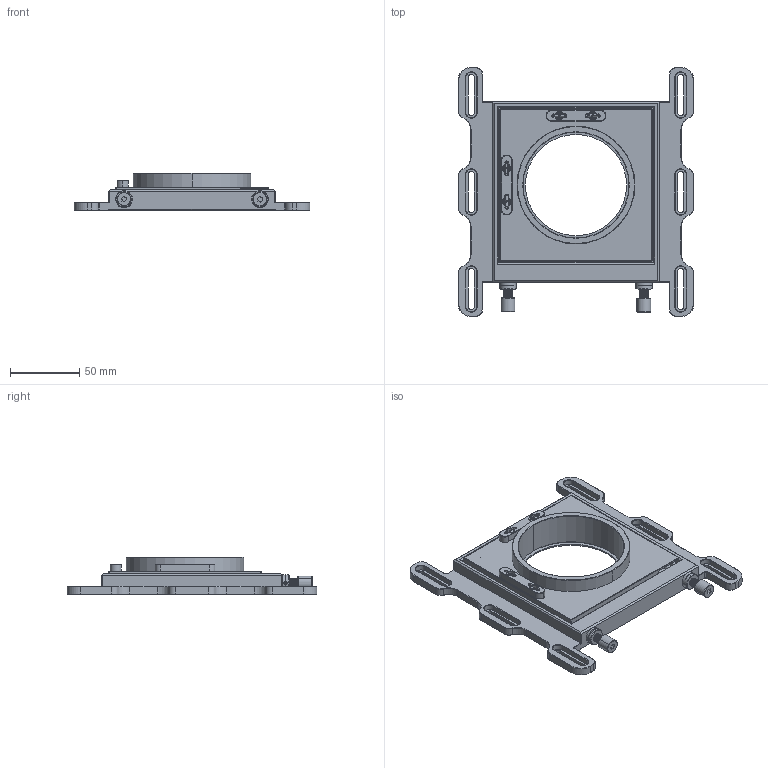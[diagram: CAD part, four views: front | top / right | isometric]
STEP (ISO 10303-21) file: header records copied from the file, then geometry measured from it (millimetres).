
FILE_DESCRIPTION (( 'STEP AP203' ), '1' );
FILE_NAME ('三英寸上方调节装配体第一版.STEP', '2026-10-10T09:17:26', ( '' ), ( '' ), 'SwSTEP 2.0', 'SolidWorks 2024', '' );
FILE_SCHEMA (( 'CONFIG_CONTROL_DESIGN' ));
Length unit declared in the file: millimetre
Products named in the file (14): 三英寸动板; 2×35金属销; 长顶杆2; 2×12陶瓷销; 三英寸定板第一版; 8mm珠子; 0.8×5×15; 2短顶杆; 2×8金属销; 三英寸上方调节装配体第一版; 8.5珠子; v垫块; 三角垫块; 2螺母
Assembly tree (25 placements, depth 2):
  三英寸上方调节装配体第一版
    8mm珠子
    三英寸动板
    2短顶杆
    v垫块
    三角垫块
    2螺母  x2
    长顶杆2
    8.5珠子  x2
    2×12陶瓷销  x4
    2×35金属销  x2
    2×8金属销  x4
    0.8×5×15  x4
    三英寸定板第一版
Bounding box: 170 x 180 x 26.89 mm (x, y, z)
Volume: 196652.9 mm3; surface area: 91092.6 mm2
Topology: 25 solids, 25 shells, 974 faces, 2409 edges, 1494 vertices
Faces by surface type: plane 367, cylinder 336, cone 211, bspline 38, torus 16, sphere 6
Entity records: 47224 total; most frequent: CARTESIAN_POINT 25548, ORIENTED_EDGE 4282, DIRECTION 4006, EDGE_CURVE 2141, AXIS2_PLACEMENT_3D 1416, VERTEX_POINT 1329, VECTOR 1174, LINE 1174
